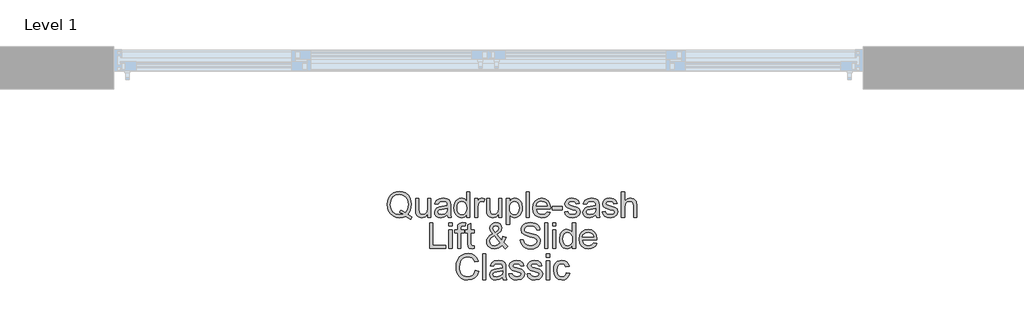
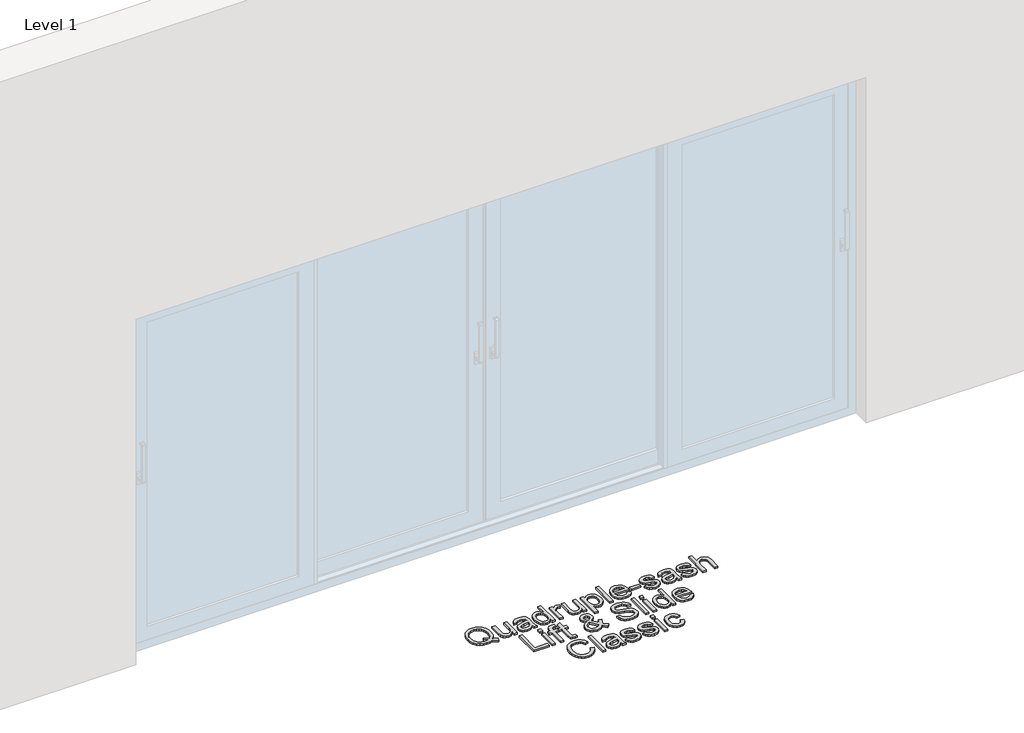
# One storey, part 14 of 17: 1 proxy.
"""IFC4 building model written with IfcOpenShell, lengths in millimetres."""

from ifc_helpers import new_model, si_unit, origin, origin_with_axes, place, context, project, spatial, polyline, outline, extrude, element, save

model = new_model("IFC4")

# Units and contexts
model_context = context("Model", 3, world=origin())
ifc_project = project(units=[si_unit("LENGTHUNIT", "METRE", prefix="MILLI")], contexts=[model_context])

# Site, building, storey
site = spatial("IfcSite", under=ifc_project)
building = spatial("IfcBuilding", under=site)
storey = spatial("IfcBuildingStorey", under=building, Name="Level 1", Elevation=0.0)

# Proxy
placement = place(None, origin())
element("IfcBuildingElementProxy", 1, Name="150mm Arial", ObjectType="150mm Arial", at=placement, inside=storey, context=model_context, shape_type="SweptSolid", body=[
    extrude(outline(polyline([(23104.9272219, -879.5997474), (23128.2877286, -895.3083086), (23123.210957, -909.1038834), (23092.1985048, -891.4823358), (23074.7700953, -897.8834825), (23055.5942463, -900.0171981), (23036.3264268, -897.5569873), (23018.9164114, -890.1763547), (23004.3344888, -878.3397515), (22993.5509478, -862.5116287), (22986.8876852, -843.5611074), (22984.6665977, -822.3573089), (22986.8830867, -801.1351163), (22993.5325537, -781.9086836), (23004.274708, -765.855233), (23018.7692586, -754.151987), (23036.1148947, -747.0058793), (23055.4103053, -744.6238433), (23074.8574673, -747.0610616), (23092.2904753, -754.3727162), (23106.7620333, -766.0713637), (23117.3248451, -781.6695603), (23123.7811741, -800.3395715), (23125.9332838, -821.2536629), (23120.7093595, -854.1791015), (23114.1518629, -867.8367206), (23104.9272219, -879.5997474)]), holes=[polyline([(23060.7813825, -854.5469835), (23076.6187023, -860.534263), (23089.4026017, -868.8575931), (23102.6739447, -849.4334238), (23107.0977256, -822.2101561), (23105.5342272, -805.6324737), (23100.8437317, -791.2896744), (23093.1412025, -779.5450417), (23082.5416025, -770.7618591), (23069.7623017, -765.2850159), (23055.5206699, -763.4594015), (23034.9928546, -767.152017), (23018.291012, -778.2298636), (23007.1993699, -796.6377589), (23003.5021558, -822.3205207), (23007.1579831, -847.4514595), (23018.1254651, -865.9697195), (23034.7767239, -877.3786598), (23055.4838817, -881.18164), (23075.7541797, -877.318879), (23055.9253401, -868.9679577), (23060.7813825, -854.5469835)])]), origin_with_axes(), (0.0, 0.0, 1.0), 10.0),
    extrude(outline(polyline([(23222.4655193, -897.6627533), (23222.4655193, -878.6432542), (23207.7134513, -894.6737121), (23188.473223, -900.0171981), (23170.7597049, -896.2648018), (23158.5460227, -886.8470227), (23152.9358222, -872.9778715), (23151.8321763, -855.4666885), (23151.8321763, -787.0038492), (23170.6677344, -787.0038492), (23170.6677344, -846.6007324), (23171.8081686, -865.8041726), (23179.257779, -877.0797557), (23193.2924771, -881.18164), (23209.0194324, -876.9877852), (23219.4120988, -865.5650493), (23222.4655193, -844.5773814), (23222.4655193, -787.0038492), (23241.3010775, -787.0038492), (23241.3010775, -897.6627533), (23222.4655193, -897.6627533)])), origin_with_axes(), (0.0, 0.0, 1.0), 10.0),
    extrude(outline(polyline([(23337.833313, -883.5360847), (23319.567972, -896.30159), (23299.3896445, -900.0171981), (23283.6488937, -897.782315), (23272.0376182, -891.0776656), (23264.8777149, -880.8965314), (23262.4910804, -868.2321937), (23266.096324, -853.3329729), (23275.5692853, -842.5172423), (23288.7578549, -836.3368247), (23305.0550273, -833.5041334), (23337.7229484, -827.0294103), (23337.833313, -822.8355555), (23336.536529, -814.4294519), (23332.6461769, -808.9296161), (23323.9457677, -804.846126), (23311.824056, -803.4849626), (23292.7677686, -807.1086002), (23283.6810833, -819.966076), (23264.8455252, -817.6116312), (23272.9941114, -799.2175314), (23289.4016484, -788.438589), (23314.2520771, -784.6494044), (23337.0791549, -787.9971306), (23349.9734189, -796.4032342), (23355.7491662, -809.1871335), (23356.6688712, -825.6682469), (23356.6688712, -849.10233), (23357.6253644, -881.8254334), (23361.3777607, -897.6627533), (23342.5422026, -897.6627533), (23337.833313, -883.5360847)]), holes=[polyline([(23337.833313, -845.8649684), (23307.4462602, -851.6407157), (23291.2410583, -854.6941363), (23283.9018125, -859.6605432), (23281.3266386, -866.9078185), (23286.936839, -877.0981498), (23303.3995583, -881.18164), (23322.4558456, -876.6750855), (23334.7431043, -865.7673844), (23337.7229484, -851.1992574), (23337.833313, -845.8649684)])]), origin_with_axes(), (0.0, 0.0, 1.0), 10.0),
    extrude(outline(polyline([(23450.8466619, -897.6627533), (23450.8466619, -879.894053), (23438.3846594, -894.9864118), (23421.1585849, -900.0171981), (23408.9816909, -898.1961822), (23397.8348664, -892.7331346), (23388.3986933, -884.0097328), (23381.3537531, -872.4076544), (23376.9667603, -858.3959489), (23375.5044293, -842.4436659), (23380.8939006, -812.4612833), (23387.6261411, -800.5694978), (23397.0439201, -791.8231033), (23408.4344664, -786.4428292), (23421.0850085, -784.6494044), (23438.4490387, -789.7813583), (23450.8466619, -803.1170806), (23450.8466619, -746.9782881), (23469.6822201, -746.9782881), (23469.6822201, -897.6627533), (23450.8466619, -897.6627533)]), holes=[polyline([(23394.3399875, -842.3700895), (23396.464506, -859.4076244), (23402.8380616, -871.5247376), (23412.0994908, -878.7674144), (23422.8876303, -881.18164), (23433.6711713, -878.877779), (23442.6980757, -871.966196), (23448.8095154, -860.3181323), (23450.8466619, -843.8048292), (23448.7727272, -825.7510203), (23442.5509229, -813.2338354), (23433.2940922, -805.9221808), (23422.1150781, -803.4849626), (23411.216574, -805.8256118), (23402.2862386, -812.8475594), (23396.3265503, -824.9094903), (23394.3399875, -842.3700895)])]), origin_with_axes(), (0.0, 0.0, 1.0), 10.0),
    extrude(outline(polyline([(23497.9355573, -897.6627533), (23497.9355573, -787.0038492), (23514.4166707, -787.0038492), (23514.4166707, -803.374598), (23526.1153182, -788.2914362), (23537.887542, -784.6494044), (23556.7966766, -790.4619399), (23550.5058944, -807.3477235), (23537.2621426, -803.4849626), (23526.6119588, -807.2005707), (23519.824536, -817.5012666), (23516.7711155, -839.5006099), (23516.7711155, -897.6627533), (23497.9355573, -897.6627533)])), origin_with_axes(), (0.0, 0.0, 1.0), 10.0),
    extrude(outline(polyline([(23639.2022435, -897.6627533), (23639.2022435, -878.6432542), (23624.4501755, -894.6737121), (23605.2099471, -900.0171981), (23587.496429, -896.2648018), (23575.2827468, -886.8470227), (23569.6725464, -872.9778715), (23568.5689004, -855.4666885), (23568.5689004, -787.0038492), (23587.4044585, -787.0038492), (23587.4044585, -846.6007324), (23588.5448927, -865.8041726), (23595.9945031, -877.0797557), (23610.0292013, -881.18164), (23625.7561565, -876.9877852), (23636.1488229, -865.5650493), (23639.2022435, -844.5773814), (23639.2022435, -787.0038492), (23658.0378016, -787.0038492), (23658.0378016, -897.6627533), (23639.2022435, -897.6627533)])), origin_with_axes(), (0.0, 0.0, 1.0), 10.0),
    extrude(outline(polyline([(23683.9366941, -940.0427592), (23683.9366941, -787.0038492), (23702.7722522, -787.0038492), (23702.7722522, -805.4715254), (23715.7952749, -789.8549347), (23733.3800342, -784.6494044), (23746.1179483, -786.4704203), (23757.2555757, -791.9334679), (23766.3238669, -800.7074535), (23772.8537723, -812.4612833), (23778.1144848, -841.4871727), (23776.6291613, -857.5958055), (23772.1731906, -872.0029842), (23764.8891271, -883.9775431), (23754.9195251, -892.7883169), (23743.3082496, -898.2099778), (23731.0991659, -900.0171981), (23714.710023, -895.1795499), (23702.7722522, -882.9474735), (23702.7722522, -940.0427592), (23683.9366941, -940.0427592)]), holes=[polyline([(23702.7722522, -843.2162181), (23704.8093988, -860.1020016), (23710.9208384, -871.9110137), (23719.9385458, -878.8639834), (23730.6944957, -881.18164), (23741.6251895, -878.7812099), (23750.8728231, -871.5799199), (23757.1774008, -859.3386465), (23759.2789267, -841.8182665), (23757.2279846, -825.0244534), (23751.0751582, -813.0498945), (23742.0712464, -805.8761955), (23731.4670479, -803.4849626), (23720.8214626, -806.0279469), (23711.4726614, -813.6568997), (23704.9473545, -826.1326979), (23702.7722522, -843.2162181)])]), origin_with_axes(), (0.0, 0.0, 1.0), 10.0),
    extrude(outline(polyline([(23799.3044878, -897.6627533), (23799.3044878, -746.9782881), (23818.1400459, -746.9782881), (23818.1400459, -897.6627533), (23799.3044878, -897.6627533)])), origin_with_axes(), (0.0, 0.0, 1.0), 10.0),
    extrude(outline(polyline([(23923.8693313, -864.7005266), (23942.3370075, -867.0549713), (23935.6829419, -880.9701078), (23925.0649478, -891.3719712), (23910.7221485, -897.8558914), (23892.8936673, -900.0171981), (23870.7931565, -896.2877944), (23853.7878113, -885.0995832), (23842.9444894, -867.1791315), (23839.3300488, -843.2530063), (23842.9812776, -818.5221391), (23853.9349641, -800.0268718), (23870.710383, -788.4937713), (23891.8268096, -784.6494044), (23912.285647, -788.4845742), (23928.6334032, -799.9900836), (23939.3525648, -818.4485627), (23942.9256187, -843.1426417), (23942.8152541, -848.2194132), (23858.165607, -848.2194132), (23861.4259612, -862.3184907), (23868.9997318, -872.6835659), (23879.9304255, -879.0571214), (23893.2615493, -881.18164), (23911.7292255, -877.2453026), (23923.8693313, -864.7005266)]), holes=[polyline([(23858.165607, -829.383855), (23924.0900605, -829.383855), (23921.5424777, -819.4326471), (23916.5484796, -812.3141305), (23905.5672021, -805.6922545), (23891.7532332, -803.4849626), (23879.0567058, -805.2461976), (23868.5582734, -810.5299028), (23861.2604143, -818.765861), (23858.165607, -829.383855)])]), origin_with_axes(), (0.0, 0.0, 1.0), 10.0),
    extrude(outline(polyline([(23952.3433978, -852.9283027), (23952.3433978, -834.0927446), (24011.204517, -834.0927446), (24011.204517, -852.9283027), (23952.3433978, -852.9283027)])), origin_with_axes(), (0.0, 0.0, 1.0), 10.0),
    extrude(outline(polyline([(24025.3311856, -864.7005266), (24044.1667438, -862.3460818), (24047.1373909, -870.4026975), (24052.885547, -876.3255976), (24072.8615394, -881.18164), (24092.0649795, -876.7302678), (24098.3189735, -866.2824192), (24096.7462779, -861.4815591), (24092.0281913, -857.8211333), (24072.6408102, -852.4500561), (24044.2771084, -843.2346122), (24031.8978792, -832.4740638), (24027.6856304, -817.2805374), (24031.0701447, -803.2458393), (24040.3039828, -792.5220791), (24052.2785418, -786.9486669), (24068.4837436, -784.6494044), (24091.4027919, -788.3466185), (24105.9709189, -798.3530087), (24112.4456421, -815.2571864), (24093.6100839, -817.6116312), (24086.5283555, -807.2189648), (24069.9552716, -803.4849626), (24051.9290539, -807.0534179), (24046.5211885, -815.367551), (24048.7652687, -820.8489927), (24055.7918148, -825.0060593), (24072.0154108, -829.015973), (24099.6617427, -837.8819291), (24112.5008244, -847.9251076), (24117.1545316, -864.2958564), (24111.691484, -882.3220741), (24095.9277405, -895.4002791), (24072.604022, -900.0171981), (24053.612114, -897.791512), (24039.7521598, -891.1144538), (24030.4999276, -880.0595999), (24025.3311856, -864.7005266)])), origin_with_axes(), (0.0, 0.0, 1.0), 10.0),
    extrude(outline(polyline([(24208.9778776, -883.5360847), (24190.7125365, -896.30159), (24170.5342091, -900.0171981), (24154.7934582, -897.782315), (24143.1821828, -891.0776656), (24136.0222794, -880.8965314), (24133.635645, -868.2321937), (24137.2408885, -853.3329729), (24146.7138499, -842.5172423), (24159.9024194, -836.3368247), (24176.1995918, -833.5041334), (24208.867513, -827.0294103), (24208.9778776, -822.8355555), (24207.6810936, -814.4294519), (24203.7907415, -808.9296161), (24195.0903323, -804.846126), (24182.9686205, -803.4849626), (24163.9123332, -807.1086002), (24154.8256479, -819.966076), (24135.9900898, -817.6116312), (24144.1386759, -799.2175314), (24160.5462129, -788.438589), (24185.3966417, -784.6494044), (24208.2237195, -787.9971306), (24221.1179834, -796.4032342), (24226.8937308, -809.1871335), (24227.8134358, -825.6682469), (24227.8134358, -849.10233), (24228.7699289, -881.8254334), (24232.5223253, -897.6627533), (24213.6867671, -897.6627533), (24208.9778776, -883.5360847)]), holes=[polyline([(24208.9778776, -845.8649684), (24178.5908248, -851.6407157), (24162.3856229, -854.6941363), (24155.0463771, -859.6605432), (24152.4712031, -866.9078185), (24158.0814036, -877.0981498), (24174.5441229, -881.18164), (24193.6004102, -876.6750855), (24205.8876688, -865.7673844), (24208.867513, -851.1992574), (24208.9778776, -845.8649684)])]), origin_with_axes(), (0.0, 0.0, 1.0), 10.0),
    extrude(outline(polyline([(24246.6489939, -864.7005266), (24265.4845521, -862.3460818), (24268.4551992, -870.4026975), (24274.2033553, -876.3255976), (24294.1793477, -881.18164), (24313.3827878, -876.7302678), (24319.6367817, -866.2824192), (24318.0640862, -861.4815591), (24313.3459996, -857.8211333), (24293.9586185, -852.4500561), (24265.5949167, -843.2346122), (24253.2156875, -832.4740638), (24249.0034387, -817.2805374), (24252.387953, -803.2458393), (24261.6217911, -792.5220791), (24273.5963501, -786.9486669), (24289.8015519, -784.6494044), (24312.7206002, -788.3466185), (24327.2887272, -798.3530087), (24333.7634504, -815.2571864), (24314.9278922, -817.6116312), (24307.8461638, -807.2189648), (24291.2730799, -803.4849626), (24273.2468622, -807.0534179), (24267.8389968, -815.367551), (24270.083077, -820.8489927), (24277.1096231, -825.0060593), (24293.3332191, -829.015973), (24320.979551, -837.8819291), (24333.8186327, -847.9251076), (24338.4723399, -864.2958564), (24333.0092923, -882.3220741), (24317.2455488, -895.4002791), (24293.9218303, -900.0171981), (24274.9299223, -897.791512), (24261.0699681, -891.1144538), (24251.8177359, -880.0595999), (24246.6489939, -864.7005266)])), origin_with_axes(), (0.0, 0.0, 1.0), 10.0),
    extrude(outline(polyline([(24359.6623428, -897.6627533), (24359.6623428, -746.9782881), (24378.497901, -746.9782881), (24378.497901, -802.3813166), (24393.1855896, -789.0823825), (24411.2761867, -784.6494044), (24432.4294015, -789.4870527), (24445.2684831, -802.8595632), (24449.1312441, -827.6180215), (24449.1312441, -897.6627533), (24430.2956859, -897.6627533), (24430.2956859, -829.567796), (24428.7965668, -817.7771781), (24424.2992094, -809.7021683), (24417.0519341, -805.039264), (24407.3030612, -803.4849626), (24391.8704115, -807.6788173), (24381.5697156, -819.046371), (24378.497901, -838.8752105), (24378.497901, -897.6627533), (24359.6623428, -897.6627533)])), origin_with_axes(), (0.0, 0.0, 1.0), 10.0),
    extrude(outline(polyline([(23233.0605208, -1080.6249801), (23233.0605208, -929.9405149), (23251.8960789, -929.9405149), (23251.8960789, -1061.789422), (23327.2383116, -1061.789422), (23327.2383116, -1080.6249801), (23233.0605208, -1080.6249801)])), origin_with_axes(), (0.0, 0.0, 1.0), 10.0),
    extrude(outline(polyline([(23346.0738697, -948.776073), (23346.0738697, -929.9405149), (23364.9094279, -929.9405149), (23364.9094279, -948.776073), (23346.0738697, -948.776073)])), origin_with_axes(), (0.0, 0.0, 1.0), 10.0),
    extrude(outline(polyline([(23346.0738697, -1080.6249801), (23346.0738697, -969.966076), (23364.9094279, -969.966076), (23364.9094279, -1080.6249801), (23346.0738697, -1080.6249801)])), origin_with_axes(), (0.0, 0.0, 1.0), 10.0),
    extrude(outline(polyline([(23494.4038902, -1064.9164189), (23496.7583349, -1081.1768031), (23482.6684545, -1082.9794249), (23466.8863169, -1079.8524279), (23459.0136422, -1071.6486594), (23456.7327739, -1050.2747155), (23456.7327739, -988.8016341), (23442.6061052, -988.8016341), (23442.6061052, -969.966076), (23456.7327739, -969.966076), (23456.7327739, -943.0739021), (23475.568332, -932.0006541), (23475.568332, -969.966076), (23494.4038902, -969.966076), (23494.4038902, -988.8016341), (23475.568332, -988.8016341), (23475.568332, -1049.7228925), (23476.5616134, -1059.4349772), (23479.7805809, -1062.8746738), (23486.2001217, -1064.1438667), (23494.4038902, -1064.9164189)])), origin_with_axes(), (0.0, 0.0, 1.0), 10.0),
    extrude(outline(polyline([(23397.8716546, -1080.6249801), (23397.8716546, -988.8016341), (23381.3905412, -988.8016341), (23381.3905412, -969.966076), (23397.8716546, -969.966076), (23397.8716546, -958.8192515), (23399.8582174, -943.1106903), (23409.4967257, -931.8902895), (23428.4794366, -927.5860701), (23445.6595258, -929.6462093), (23442.9004108, -947.3045451), (23432.047892, -946.4216283), (23420.1836976, -949.5486252), (23416.7072128, -961.2104845), (23416.7072128, -969.966076), (23437.8972157, -969.966076), (23437.8972157, -988.8016341), (23416.7072128, -988.8016341), (23416.7072128, -1080.6249801), (23397.8716546, -1080.6249801)])), origin_with_axes(), (0.0, 0.0, 1.0), 10.0),
    extrude(outline(polyline([(23658.5160482, -1062.0101512), (23638.5400559, -1077.7371064), (23615.1795492, -1082.9794249), (23594.3942165, -1079.0982698), (23578.3913497, -1067.4548047), (23570.1415959, -1054.054703), (23567.391678, -1039.1646793), (23569.6035685, -1025.9669127), (23576.23924, -1014.1119154), (23587.2711013, -1003.6088844), (23602.6715613, -994.4670168), (23589.51978, -975.4107295), (23586.2272362, -961.2840609), (23588.8208042, -948.5645409), (23596.6015084, -937.6292486), (23608.3093529, -930.0968647), (23622.6843419, -927.5860701), (23636.3603551, -929.9865001), (23647.2956474, -937.1877902), (23654.4693463, -947.7552005), (23656.8605792, -960.2539913), (23655.0901471, -970.7478252), (23649.7788508, -980.4507128), (23628.5336656, -997.4836492), (23655.7937215, -1031.4391574), (23663.9239135, -1010.5802482), (23682.7594717, -1014.6637384), (23669.4421435, -1045.6761906), (23692.1772508, -1068.4848743), (23678.0505822, -1082.9794249), (23658.5160482, -1062.0101512)]), holes=[polyline([(23619.0055219, -985.6010608), (23634.4933539, -973.9208074), (23638.0250211, -962.8291653), (23633.3713138, -951.0017591), (23621.7278487, -946.4216283), (23609.8268662, -950.9649709), (23605.0627943, -962.0566131), (23606.6814751, -968.9544005), (23611.5743056, -976.6247401), (23619.0055219, -985.6010608)]), polyline([(23645.8976958, -1048.4353055), (23612.2732814, -1006.4599699), (23591.5799192, -1022.2421075), (23586.2272362, -1036.6630817), (23588.0574491, -1045.5474319), (23593.5480879, -1054.7628758), (23602.3956499, -1061.798619), (23614.2966324, -1064.1438667), (23631.6054803, -1059.766071), (23645.8976958, -1048.4353055)])]), origin_with_axes(), (0.0, 0.0, 1.0), 10.0),
    extrude(outline(polyline([(23765.1650386, -1028.8271952), (23784.0005968, -1028.8271952), (23790.0706497, -1047.6811474), (23804.8962941, -1059.6005241), (23827.4842486, -1064.1438667), (23847.1659353, -1060.7041701), (23859.8762583, -1051.2496028), (23864.0517189, -1038.6128563), (23860.924722, -1026.8590265), (23848.1224285, -1018.3057701), (23820.6968258, -1011.1136771), (23791.1742957, -1001.8246567), (23775.1530348, -987.8083527), (23769.8739282, -969.0831592), (23771.5064045, -958.0512978), (23776.4038336, -947.7643976), (23784.4374566, -939.0455943), (23795.478515, -932.7180239), (23823.4007585, -927.5860701), (23853.1992001, -932.9571472), (23864.621936, -939.5882202), (23873.0648278, -948.7392848), (23878.4083138, -959.840124), (23880.5328323, -972.3205207), (23861.6972742, -972.3205207), (23858.2391834, -961.0817258), (23851.0286963, -952.9699278), (23839.7623102, -948.0587031), (23824.1365224, -946.4216283), (23808.1428527, -948.040309), (23797.1707722, -952.8963514), (23790.8248078, -960.0424591), (23788.7094863, -968.5313362), (23790.2086054, -975.7694144), (23794.7059628, -981.591147), (23825.4608976, -992.1125721), (23858.7910064, -1001.5671393), (23869.5285621, -1008.4005474), (23877.0195593, -1016.8342421), (23881.4203476, -1026.7762531), (23882.8872771, -1038.1346097), (23881.1996184, -1049.7458851), (23876.1366425, -1060.6673819), (23867.9052828, -1070.0667668), (23856.7124731, -1077.1117071), (23843.2525906, -1081.5124954), (23828.2200126, -1082.9794249), (23809.766132, -1081.3975323), (23794.5772041, -1076.6518546), (23782.478485, -1068.7239976), (23773.2952307, -1057.5955672), (23767.3999217, -1044.0391157), (23765.1650386, -1028.8271952)])), origin_with_axes(), (0.0, 0.0, 1.0), 10.0),
    extrude(outline(polyline([(23908.7861695, -1080.6249801), (23908.7861695, -929.9405149), (23927.6217277, -929.9405149), (23927.6217277, -1080.6249801), (23908.7861695, -1080.6249801)])), origin_with_axes(), (0.0, 0.0, 1.0), 10.0),
    extrude(outline(polyline([(23955.8750649, -948.776073), (23955.8750649, -929.9405149), (23974.7106231, -929.9405149), (23974.7106231, -948.776073), (23955.8750649, -948.776073)])), origin_with_axes(), (0.0, 0.0, 1.0), 10.0),
    extrude(outline(polyline([(23955.8750649, -1080.6249801), (23955.8750649, -969.966076), (23974.7106231, -969.966076), (23974.7106231, -1080.6249801), (23955.8750649, -1080.6249801)])), origin_with_axes(), (0.0, 0.0, 1.0), 10.0),
    extrude(outline(polyline([(24071.2428586, -1080.6249801), (24071.2428586, -1062.8562797), (24058.780856, -1077.9486386), (24041.5547816, -1082.9794249), (24029.3778876, -1081.158409), (24018.2310631, -1075.6953614), (24008.7948899, -1066.9719596), (24001.7499497, -1055.3698811), (23997.3629569, -1041.3581756), (23995.900626, -1025.4058926), (24001.2900972, -995.42351), (24008.0223377, -983.5317245), (24017.4401168, -974.7853301), (24028.8306631, -969.4050559), (24041.4812052, -967.6116312), (24058.8452354, -972.743585), (24071.2428586, -986.0793073), (24071.2428586, -929.9405149), (24090.0784168, -929.9405149), (24090.0784168, -1080.6249801), (24071.2428586, -1080.6249801)]), holes=[polyline([(24014.7361841, -1025.3323162), (24016.8607027, -1042.3698511), (24023.2342582, -1054.4869644), (24032.4956875, -1061.7296411), (24043.283827, -1064.1438667), (24054.067368, -1061.8400057), (24063.0942724, -1054.9284227), (24069.2057121, -1043.2803591), (24071.2428586, -1026.767056), (24069.1689239, -1008.7132471), (24062.9471196, -996.1960622), (24053.6902889, -988.8844076), (24042.5112748, -986.4471893), (24031.6127707, -988.7878385), (24022.6824352, -995.8097861), (24016.7227469, -1007.871717), (24014.7361841, -1025.3323162)])]), origin_with_axes(), (0.0, 0.0, 1.0), 10.0),
    extrude(outline(polyline([(24195.8077022, -1047.6627533), (24214.2753783, -1050.0171981), (24207.6213127, -1063.9323346), (24197.0033187, -1074.334198), (24182.6605194, -1080.8181182), (24164.8320382, -1082.9794249), (24142.7315273, -1079.2500212), (24125.7261821, -1068.06181), (24114.8828603, -1050.1413583), (24111.2684197, -1026.215233), (24114.9196485, -1001.4843659), (24125.8733349, -982.9890986), (24142.6487539, -971.455998), (24163.7651804, -967.6116312), (24184.2240178, -971.446801), (24200.571774, -982.9523104), (24211.2909356, -1001.4107895), (24214.8639895, -1026.1048684), (24214.7536249, -1031.18164), (24130.1039778, -1031.18164), (24133.364332, -1045.2807174), (24140.9381026, -1055.6457926), (24151.8687964, -1062.0193482), (24165.1999202, -1064.1438667), (24183.6675963, -1060.2075294), (24195.8077022, -1047.6627533)]), holes=[polyline([(24130.1039778, -1012.3460818), (24196.0284314, -1012.3460818), (24193.4808486, -1002.3948738), (24188.4868505, -995.2763572), (24177.5055729, -988.6544813), (24163.691604, -986.4471893), (24150.9950766, -988.2084244), (24140.4966442, -993.4921296), (24133.1987851, -1001.7280877), (24130.1039778, -1012.3460818)])]), origin_with_axes(), (0.0, 0.0, 1.0), 10.0),
    extrude(outline(polyline([(23501.4672245, -1210.0235884), (23520.3027826, -1214.8796307), (23511.6115705, -1236.8283903), (23497.9723455, -1252.8634467), (23480.0564924, -1262.6721004), (23458.5353956, -1265.9416516), (23436.6878036, -1263.4676452), (23419.3375691, -1256.045626), (23406.0386349, -1243.9331113), (23396.3449444, -1227.3876186), (23390.4266428, -1207.9358581), (23388.4538756, -1187.1045401), (23390.6841602, -1165.1327879), (23397.3750139, -1146.159274), (23408.176949, -1130.7864051), (23422.7404775, -1119.6165881), (23440.0125372, -1112.8153697), (23458.9400658, -1110.5482969), (23479.5920413, -1113.4821558), (23496.6663644, -1122.2837325), (23509.6296062, -1136.4104011), (23517.9483379, -1155.3195357), (23499.1127797, -1159.807696), (23492.5828743, -1146.071902), (23483.6617359, -1136.6495244), (23472.239, -1131.2002724), (23458.2043018, -1129.383855), (23442.0266911, -1131.398009), (23428.736954, -1137.4404707), (23418.6523888, -1146.8766439), (23412.0902937, -1159.071932), (23407.2894337, -1187.0677519), (23408.7103779, -1204.4685703), (23412.9732105, -1219.5149439), (23420.2388799, -1231.6320571), (23430.6683345, -1240.2450943), (23443.1717238, -1245.3908437), (23456.6591975, -1247.1060935), (23472.3815542, -1244.7700428), (23485.4827518, -1237.7618908), (23495.3741789, -1226.1552139), (23501.4672245, -1210.0235884)])), origin_with_axes(), (0.0, 0.0, 1.0), 10.0),
    extrude(outline(polyline([(23543.8472303, -1263.5872069), (23543.8472303, -1112.9027417), (23562.6827885, -1112.9027417), (23562.6827885, -1263.5872069), (23543.8472303, -1263.5872069)])), origin_with_axes(), (0.0, 0.0, 1.0), 10.0),
    extrude(outline(polyline([(23661.5694688, -1249.4605383), (23643.3041277, -1262.2260435), (23623.1258003, -1265.9416516), (23607.3850494, -1263.7067685), (23595.7737739, -1257.0021192), (23588.6138706, -1246.8209849), (23586.2272362, -1234.1566473), (23589.8324797, -1219.2574265), (23599.3054411, -1208.4416958), (23612.4940106, -1202.2612783), (23628.791183, -1199.4285869), (23661.4591042, -1192.9538638), (23661.5694688, -1188.7600091), (23660.2726847, -1180.3539055), (23656.3823326, -1174.8540696), (23647.6819235, -1170.7705795), (23635.5602117, -1169.4094161), (23616.5039244, -1173.0330538), (23607.4172391, -1185.8905295), (23588.5816809, -1183.5360847), (23596.7302671, -1165.141985), (23613.1378041, -1154.3630425), (23637.9882329, -1150.573858), (23660.8153107, -1153.9215841), (23673.7095746, -1162.3276877), (23679.4853219, -1175.111587), (23680.4050269, -1191.5927004), (23680.4050269, -1215.0267835), (23681.3615201, -1247.749887), (23685.1139165, -1263.5872069), (23666.2783583, -1263.5872069), (23661.5694688, -1249.4605383)]), holes=[polyline([(23661.5694688, -1211.789422), (23631.182416, -1217.5651693), (23614.9772141, -1220.6185898), (23607.6379683, -1225.5849968), (23605.0627943, -1232.8322721), (23610.6729947, -1243.0226033), (23627.135714, -1247.1060935), (23646.1920014, -1242.5995391), (23658.47926, -1231.6918379), (23661.4591042, -1217.1237109), (23661.5694688, -1211.789422)])]), origin_with_axes(), (0.0, 0.0, 1.0), 10.0),
    extrude(outline(polyline([(23699.2405851, -1230.6249801), (23718.0761432, -1228.2705353), (23721.0467903, -1236.327151), (23726.7949465, -1242.2500512), (23746.7709389, -1247.1060935), (23765.974379, -1242.6547214), (23772.2283729, -1232.2068727), (23770.6556774, -1227.4060127), (23765.9375908, -1223.7455868), (23746.5502097, -1218.3745097), (23718.1865078, -1209.1590657), (23705.8072787, -1198.3985173), (23701.5950299, -1183.2049909), (23704.9795442, -1169.1702928), (23714.2133823, -1158.4465327), (23726.1879412, -1152.8731204), (23742.3931431, -1150.573858), (23765.3121914, -1154.271072), (23779.8803184, -1164.2774623), (23786.3550415, -1181.18164), (23767.5194834, -1183.5360847), (23760.437755, -1173.1434184), (23743.8646711, -1169.4094161), (23725.8384533, -1172.9778715), (23720.430588, -1181.2920046), (23722.6746682, -1186.7734463), (23729.7012143, -1190.9305128), (23745.9248103, -1194.9404266), (23773.5711422, -1203.8063827), (23786.4102238, -1213.8495611), (23791.0639311, -1230.2203099), (23785.6008835, -1248.2465277), (23769.83714, -1261.3247326), (23746.5134215, -1265.9416516), (23727.5215135, -1263.7159656), (23713.6615593, -1257.0389074), (23704.4093271, -1245.9840534), (23699.2405851, -1230.6249801)])), origin_with_axes(), (0.0, 0.0, 1.0), 10.0),
    extrude(outline(polyline([(23805.1905997, -1230.6249801), (23824.0261578, -1228.2705353), (23826.996805, -1236.327151), (23832.7449611, -1242.2500512), (23852.7209535, -1247.1060935), (23871.9243936, -1242.6547214), (23878.1783875, -1232.2068727), (23876.605692, -1227.4060127), (23871.8876054, -1223.7455868), (23852.5002243, -1218.3745097), (23824.1365224, -1209.1590657), (23811.7572933, -1198.3985173), (23807.5450445, -1183.2049909), (23810.9295588, -1169.1702928), (23820.1633969, -1158.4465327), (23832.1379558, -1152.8731204), (23848.3431577, -1150.573858), (23871.262206, -1154.271072), (23885.830333, -1164.2774623), (23892.3050562, -1181.18164), (23873.469498, -1183.5360847), (23866.3877696, -1173.1434184), (23849.8146857, -1169.4094161), (23831.7884679, -1172.9778715), (23826.3806026, -1181.2920046), (23828.6246828, -1186.7734463), (23835.6512289, -1190.9305128), (23851.8748249, -1194.9404266), (23879.5211568, -1203.8063827), (23892.3602385, -1213.8495611), (23897.0139457, -1230.2203099), (23891.5508981, -1248.2465277), (23875.7871546, -1261.3247326), (23852.4634361, -1265.9416516), (23833.4715281, -1263.7159656), (23819.6115739, -1257.0389074), (23810.3593417, -1245.9840534), (23805.1905997, -1230.6249801)])), origin_with_axes(), (0.0, 0.0, 1.0), 10.0),
    extrude(outline(polyline([(23918.2039486, -1131.7382998), (23918.2039486, -1112.9027417), (23937.0395068, -1112.9027417), (23937.0395068, -1131.7382998), (23918.2039486, -1131.7382998)])), origin_with_axes(), (0.0, 0.0, 1.0), 10.0),
    extrude(outline(polyline([(23918.2039486, -1263.5872069), (23918.2039486, -1152.9283027), (23937.0395068, -1152.9283027), (23937.0395068, -1263.5872069), (23918.2039486, -1263.5872069)])), origin_with_axes(), (0.0, 0.0, 1.0), 10.0),
    extrude(outline(polyline([(24035.9261871, -1223.5616458), (24054.7617452, -1225.9160906), (24049.5102297, -1242.6685169), (24039.6417952, -1255.3282561), (24026.0853437, -1263.2883028), (24009.7697772, -1265.9416516), (23989.734004, -1262.2398391), (23974.0668296, -1251.1344013), (23963.9546732, -1233.1127821), (23960.5839545, -1208.662425), (23962.0232928, -1191.9008016), (23966.3413077, -1177.3740613), (23973.6069771, -1165.6432242), (23983.8892789, -1157.2693103), (23996.1903331, -1152.247721), (24009.5122598, -1150.573858), (24025.4277546, -1152.8731204), (24038.1518731, -1159.7709078), (24047.2799451, -1170.8993382), (24052.4073005, -1185.8905295), (24033.5717423, -1188.2449743), (24024.8345449, -1174.1366998), (24009.6594126, -1169.4094161), (23997.4871171, -1171.7362697), (23987.8256162, -1178.7168306), (23981.5210385, -1190.7281777), (23979.4195126, -1208.1473902), (23981.4750533, -1225.8011274), (23987.6416752, -1237.8538613), (23997.1284322, -1244.7930354), (24009.1443778, -1247.1060935), (24018.8978492, -1245.6621567), (24026.8946841, -1241.3303462), (24032.7118181, -1234.0002974), (24035.9261871, -1223.5616458)])), origin_with_axes(), (0.0, 0.0, 1.0), 10.0),
])

save(model, "model.ifc")
